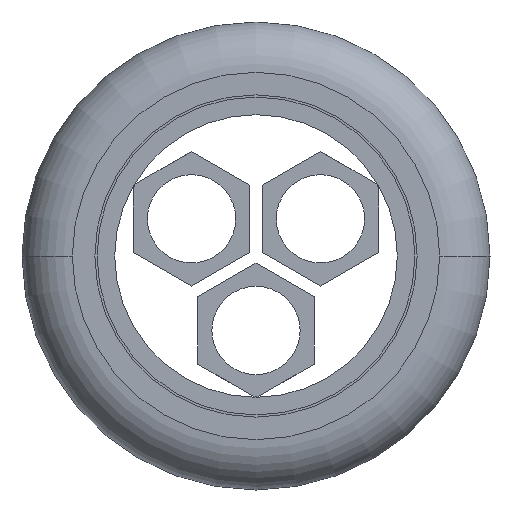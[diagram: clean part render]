
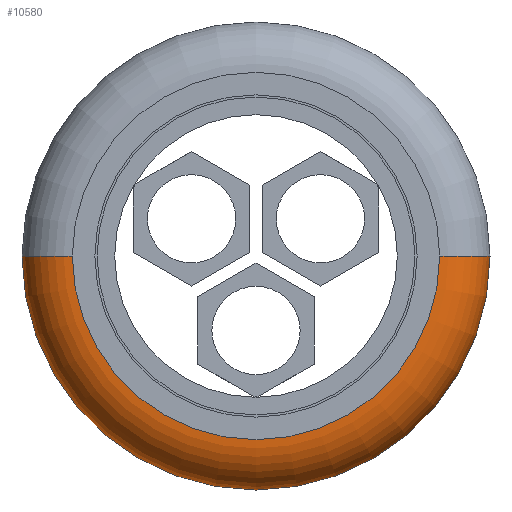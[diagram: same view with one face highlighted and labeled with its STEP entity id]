
A CAD part, front view. The second image highlights one B-rep face of the part: STEP entity #10580.
In plain terms, the highlighted toroidal (fillet/blend) face has major radius 10.4 mm and minor radius 2.85 mm.
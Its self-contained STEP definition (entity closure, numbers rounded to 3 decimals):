
#10040=CARTESIAN_POINT('',(-202.976,15.121,0.));
#10050=DIRECTION('',(0.,-1.,0.));
#10060=DIRECTION('',(1.,0.,0.));
#10070=AXIS2_PLACEMENT_3D('',#10040,#10050,#10060);
#10080=CIRCLE('',#10070,10.4);
#10090=CARTESIAN_POINT('',(-192.576,15.121,0.));
#10100=VERTEX_POINT('',#10090);
#10110=CARTESIAN_POINT('',(-213.376,15.121,0.));
#10120=VERTEX_POINT('',#10110);
#10150=EDGE_CURVE('',#10120,#10100,#10080,.T.);
#10250=CARTESIAN_POINT('',(-202.976,17.971,0.));
#10260=DIRECTION('',(0.,-1.,0.));
#10270=DIRECTION('',(1.,0.,0.));
#10280=AXIS2_PLACEMENT_3D('',#10250,#10260,#10270);
#10290=TOROIDAL_SURFACE('',#10280,10.4,2.85);
#10300=CARTESIAN_POINT('',(-213.376,17.971,0.));
#10310=DIRECTION('',(0.,0.,-1.));
#10320=DIRECTION('',(1.,0.,0.));
#10330=AXIS2_PLACEMENT_3D('',#10300,#10310,#10320);
#10340=CIRCLE('',#10330,2.85);
#10350=CARTESIAN_POINT('',(-216.226,17.971,0.));
#10360=VERTEX_POINT('',#10350);
#10370=EDGE_CURVE('',#10120,#10360,#10340,.T.);
#10380=ORIENTED_EDGE('',*,*,#10370,.T.);
#10390=ORIENTED_EDGE('',*,*,#10150,.F.);
#10400=CARTESIAN_POINT('',(-192.576,17.971,0.));
#10410=DIRECTION('',(0.,0.,1.));
#10420=DIRECTION('',(-1.,0.,0.));
#10430=AXIS2_PLACEMENT_3D('',#10400,#10410,#10420);
#10440=CIRCLE('',#10430,2.85);
#10450=CARTESIAN_POINT('',(-189.726,17.971,0.));
#10460=VERTEX_POINT('',#10450);
#10470=EDGE_CURVE('',#10100,#10460,#10440,.T.);
#10480=ORIENTED_EDGE('',*,*,#10470,.F.);
#10490=CARTESIAN_POINT('',(-202.976,17.971,0.));
#10500=DIRECTION('',(0.,-1.,0.));
#10510=DIRECTION('',(1.,0.,0.));
#10520=AXIS2_PLACEMENT_3D('',#10490,#10500,#10510);
#10530=CIRCLE('',#10520,13.25);
#10540=EDGE_CURVE('',#10360,#10460,#10530,.T.);
#10550=ORIENTED_EDGE('',*,*,#10540,.T.);
#10560=EDGE_LOOP('',(#10550,#10480,#10390,#10380));
#10570=FACE_OUTER_BOUND('',#10560,.T.);
#10580=ADVANCED_FACE('',(#10570),#10290,.T.);
